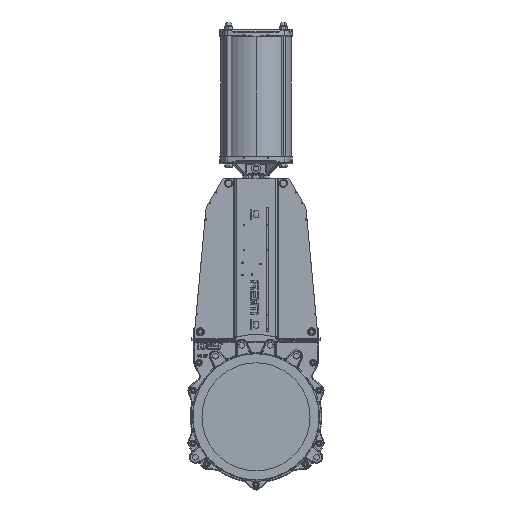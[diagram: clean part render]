
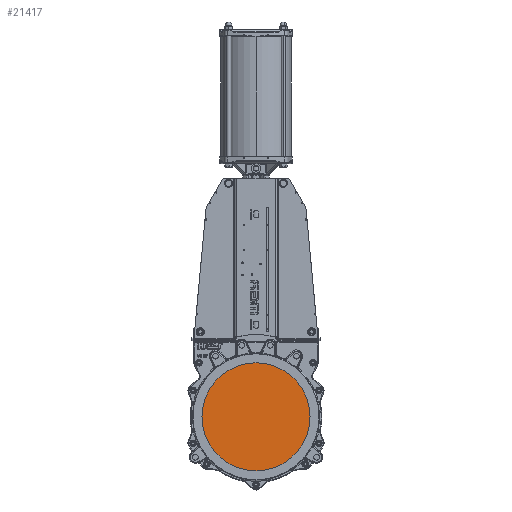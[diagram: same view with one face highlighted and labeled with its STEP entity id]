
A CAD part, top view. The second image highlights one B-rep face of the part: STEP entity #21417.
In plain terms, the highlighted planar face has unit normal (0, 0, 1).
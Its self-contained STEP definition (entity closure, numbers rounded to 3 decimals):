
#77 = CARTESIAN_POINT ( 'NONE',  ( 0., 0., -0.25 ) ) ;
#294 = DIRECTION ( 'NONE',  ( 0., 0., 1. ) ) ;
#4879 = CIRCLE ( 'NONE', #93739, 200. ) ;
#12744 = AXIS2_PLACEMENT_3D ( 'NONE', #97324, #294, #113723 ) ;
#14014 = CARTESIAN_POINT ( 'NONE',  ( 200., 0., -0.25 ) ) ;
#16330 = DIRECTION ( 'NONE',  ( 1., 0., 0. ) ) ;
#20818 = VERTEX_POINT ( 'NONE', #188328 ) ;
#21417 = ADVANCED_FACE ( 'NONE', ( #36647 ), #64630, .T. ) ;
#36647 = FACE_OUTER_BOUND ( 'NONE', #96594, .T. ) ;
#41250 = CARTESIAN_POINT ( 'NONE',  ( 0., 0., -0.25 ) ) ;
#45115 = EDGE_CURVE ( 'NONE', #20818, #117032, #4879, .T. ) ;
#46452 = ORIENTED_EDGE ( 'NONE', *, *, #45115, .T. ) ;
#51689 = EDGE_CURVE ( 'NONE', #117032, #20818, #127029, .T. ) ;
#57601 = DIRECTION ( 'NONE',  ( 1., 0., 0. ) ) ;
#64630 = PLANE ( 'NONE',  #68116 ) ;
#68116 = AXIS2_PLACEMENT_3D ( 'NONE', #77, #113508, #16330 ) ;
#87183 = ORIENTED_EDGE ( 'NONE', *, *, #51689, .T. ) ;
#93739 = AXIS2_PLACEMENT_3D ( 'NONE', #41250, #154679, #57601 ) ;
#96594 = EDGE_LOOP ( 'NONE', ( #87183, #46452 ) ) ;
#97324 = CARTESIAN_POINT ( 'NONE',  ( 0., 0., -0.25 ) ) ;
#113508 = DIRECTION ( 'NONE',  ( 0., 0., 1. ) ) ;
#113723 = DIRECTION ( 'NONE',  ( 1., 0., 0. ) ) ;
#117032 = VERTEX_POINT ( 'NONE', #14014 ) ;
#127029 = CIRCLE ( 'NONE', #12744, 200. ) ;
#154679 = DIRECTION ( 'NONE',  ( 0., 0., 1. ) ) ;
#188328 = CARTESIAN_POINT ( 'NONE',  ( -200., 0., -0.25 ) ) ;
